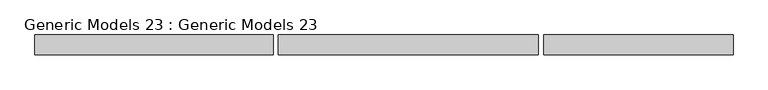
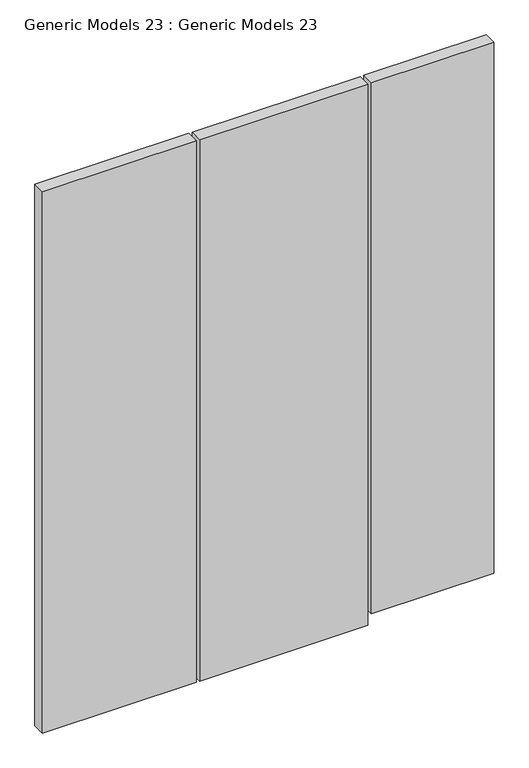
"""IFC4 building model written with IfcOpenShell, lengths in millimetres: proxy geometry, Generic Models 23 : Generic Models 23."""

from ifc_helpers import new_model, si_unit, frame, origin, place, context, project, spatial, polyline, outline, extrude, source, transform, mapped, element, save


def generic_models_23_generic_models_23_d472f416(model_context):
    return source(origin(), model_context, "Body", "SweptSolid", [
        extrude(outline(polyline([(92446.2614834, 13131.4952727), (92446.2614834, 13091.4952727), (92066.1887903, 13091.4952727), (92066.1887903, 13131.4952727), (92446.2614834, 13131.4952727)])), frame((0.0, 0.0, 483.6249747), z_axis=(0.0, 0.0, 1.0), x_axis=(1.0, 0.0, 0.0)), (0.0, 0.0, 1.0), 1744.6786917),
        extrude(outline(polyline([(92054.7948522, 13131.4952727), (92054.7948522, 13091.4952727), (91532.5331444, 13091.4952727), (91532.5331444, 13131.4952727), (92054.7948522, 13131.4952727)])), frame((0.0, 0.0, 450.0), z_axis=(0.0, 0.0, 1.0), x_axis=(1.0, 0.0, 0.0)), (0.0, 0.0, 1.0), 1778.3036664),
        extrude(outline(polyline([(91522.5331444, 13131.4952727), (91522.5331444, 13091.4952727), (91043.8774986, 13091.4952727), (91043.8774986, 13131.4952727), (91522.5331444, 13131.4952727)])), frame((0.0, 0.0, 450.0), z_axis=(0.0, 0.0, 1.0), x_axis=(1.0, 0.0, 0.0)), (0.0, 0.0, 1.0), 1778.3036664),
    ])


if __name__ == "__main__":
    model = new_model("IFC4")
    model_context = context("Model", 3, world=origin())
    ifc_project = project(units=[si_unit("LENGTHUNIT", "METRE", prefix="MILLI")], contexts=[model_context])
    site = spatial("IfcSite", under=ifc_project)
    building = spatial("IfcBuilding", under=site)
    placement = place(None, origin())
    generic_models_23_generic_models_23_shape = generic_models_23_generic_models_23_d472f416(model_context)
    element("IfcBuildingElementProxy", 1, Name="Generic Models 23 : Generic Models 23", ObjectType="Generic Models 23 : Generic Models 23", at=placement, inside=building, context=model_context, shape_type="MappedRepresentation", body=[
        mapped(generic_models_23_generic_models_23_shape, transform((0.0, 0.0, 0.0), x_axis=(1.0, 0.0, 0.0), y_axis=(0.0, 1.0, 0.0), z_axis=(0.0, 0.0, 1.0))),
    ])
    save(model, "model.ifc")
